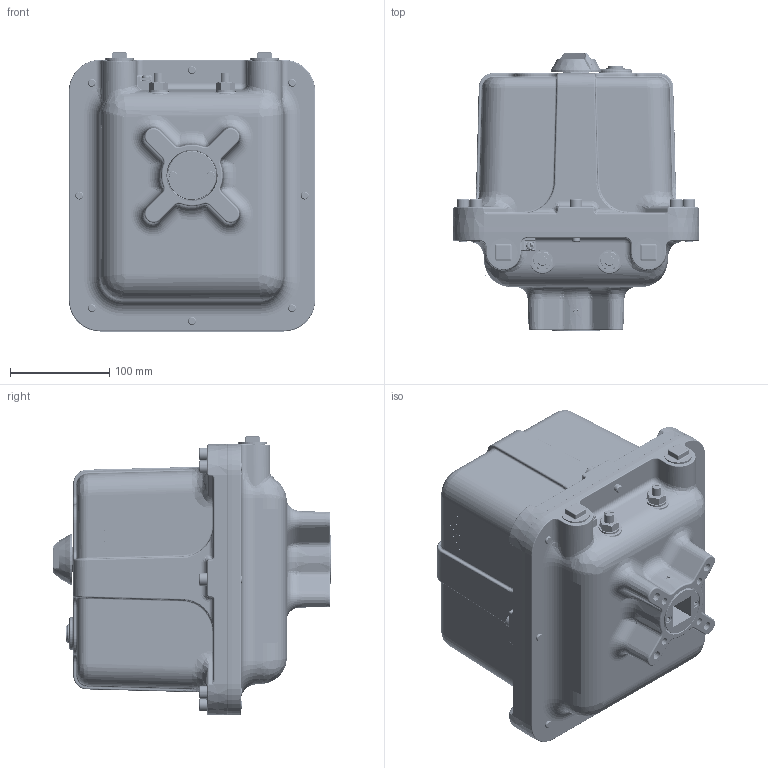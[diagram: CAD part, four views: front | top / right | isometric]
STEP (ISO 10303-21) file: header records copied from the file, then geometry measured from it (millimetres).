
FILE_DESCRIPTION (( 'STEP AP203' ), '1' );
FILE_NAME ('VCD00070.STEP', '2025-10-30T12:38:49', ( '' ), ( '' ), 'SwSTEP 2.0', 'SolidWorks 2023', '' );
FILE_SCHEMA (( 'CONFIG_CONTROL_DESIGN' ));
Length unit declared in the file: inch
Products named in the file (204): M3 Metric Nylon Spacer_4.5mm O.D. x 2.5mm lg; VC007203; VCM00102 (Bottom Housing)_Motor on Top; VCA00013; M105^VCE00014.CFM60S; VCM00068; VCM00060_With Wires + Terminals; VCM00051; VCM00102 (Washer); PEM SO4-6440-18; VC001442; VCM00013; VC001365; VC002067; VCM00091; VCM00167; VCM00103; VCM00118; VCM00086_Pressed on Flange; VCM00126; VCM00112; VC001357_-010; VCM00102 (1875 Dowel Pin); VCM00087_Spring shaft; VCM00197_91390A097; VCM00114; VC097403; Nylon Nut Metric_M3; VCM00102 (Flange Bearing); VCM00079; VCM00165; Part2^VCE00014.CFM60S; VCM00128; VC007800; VCM00056; VCM00206_91375A533; VC002667; BRACKET^VCE00014.CFM60S; SB14-2^VCE00014.CFM60S; VCM00110_Folded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
Assembly tree (334 placements, depth 4):
  VCD00070
    VCM00050_VCM00050 With ATEX Hardware
      VC001343_VC-P-0077
      VC007210
      VCM00029
      VCM00030
      VCM00164  x2
      VCM00051
      VCM00165
    VCM00052  x2
    VCM00106  x2
    VCM00108  x2
    VCM00107  x2
    VC097403
      VC007203
      VC007207  x2
      VC007400
        VC007201
        VC003080
      VC007307  x2
    VCM00059
    VC007209
    VC001012
    VCM00109
      VCM00139
      VCM00138
      VCM00013
      VCM00013
    VC007216
    VCA00017
      VCA00015
        VCM00089_Machining
        VCM00101
        VCM00088  x2
        VCM00082
        VCM00094
        VCM00121
        VCM00118
      VCA00013
        VCM00091
        VCM00087_Spring shaft
        VCM00079
      VCA00010
        VCM00081
        VCM00080
      VCM00095  x4
      VCA00011
        VCM00084
        VCM00083
      VCM00096  x11
      VCM00097  x11
      VCA00014
        VCM00086_Pressed on Flange
        VCM00131
      VCM00076
      VCM00103  x2
      VCA00022
        VCM00119
        VCM00120
      VCA00026
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Bounding box: 248.16 x 279.89 x 280.94 mm (x, y, z)
Volume: 4179553.7 mm3; surface area: 1938901.7 mm2
Topology: 602 solids, 1144 shells, 28743 faces, 83337 edges, 55987 vertices
Faces by surface type: plane 12173, cylinder 9635, bspline 3674, cone 2046, torus 1047, sphere 168
Entity records: 933196 total; most frequent: CARTESIAN_POINT 331850, ORIENTED_EDGE 118222, DIRECTION 115008, EDGE_CURVE 65049, VERTEX_POINT 44565, AXIS2_PLACEMENT_3D 40696, LINE 33616, VECTOR 33616
